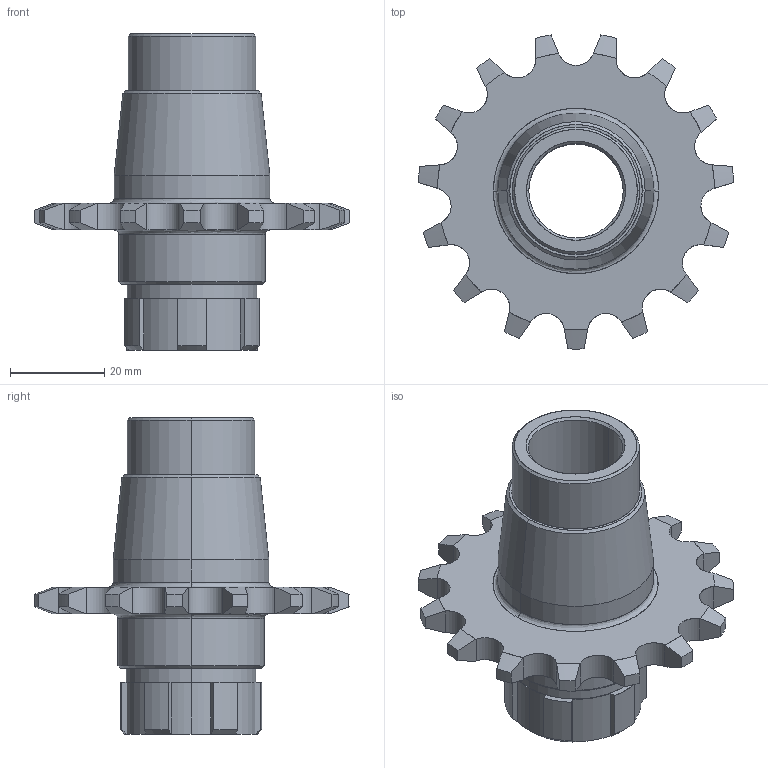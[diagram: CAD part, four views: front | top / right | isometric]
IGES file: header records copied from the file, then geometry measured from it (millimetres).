
Start section: SolidWorks IGES file using analytic representation for surfaces
Bounding box: 66.9 x 66.58 x 67.1 mm (x, y, z)
Surface area: 16361.9 mm2 (no closed solid volume)
Topology: 0 solids, 0 shells, 166 faces, 2012 edges, 2012 vertices
Faces by surface type: revolution 111, bspline 55
